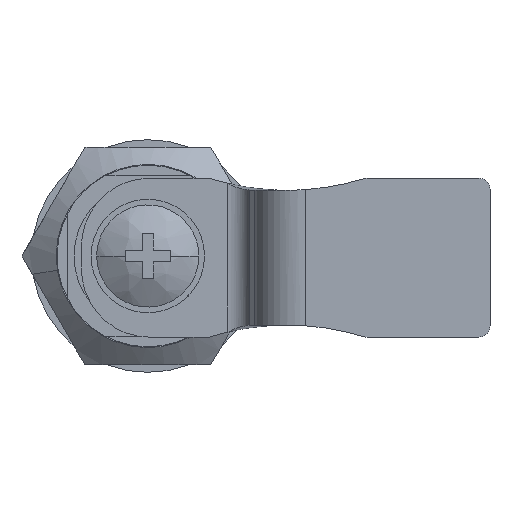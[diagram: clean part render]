
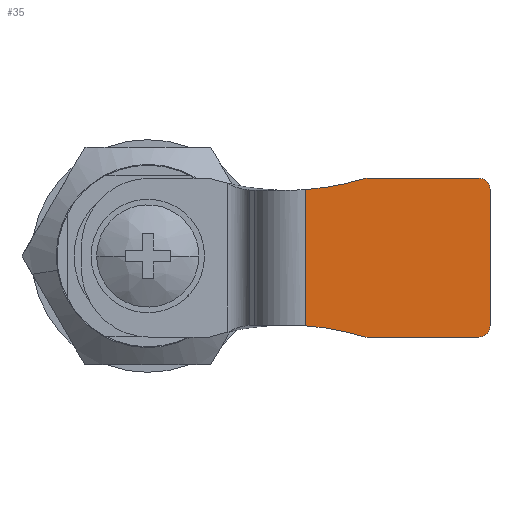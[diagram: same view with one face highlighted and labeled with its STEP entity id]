
A CAD part, front view. The second image highlights one B-rep face of the part: STEP entity #35.
In plain terms, the highlighted planar face has unit normal (0, -1, 0).
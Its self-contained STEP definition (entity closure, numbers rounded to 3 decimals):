
#14 = VERTEX_POINT ( 'NONE', #313 ) ;
#15 = ORIENTED_EDGE ( 'NONE', *, *, #33, .F. ) ;
#19 = ORIENTED_EDGE ( 'NONE', *, *, #240, .F. ) ;
#21 = EDGE_LOOP ( 'NONE', ( #19, #15, #22, #48, #31, #25, #47, #42, #40, #62 ) ) ;
#22 = ORIENTED_EDGE ( 'NONE', *, *, #24, .F. ) ;
#24 = EDGE_CURVE ( 'NONE', #34, #30, #336, .T. ) ;
#25 = ORIENTED_EDGE ( 'NONE', *, *, #54, .T. ) ;
#28 = EDGE_CURVE ( 'NONE', #14, #34, #331, .T. ) ;
#30 = VERTEX_POINT ( 'NONE', #428 ) ;
#31 = ORIENTED_EDGE ( 'NONE', *, *, #46, .F. ) ;
#33 = EDGE_CURVE ( 'NONE', #30, #236, #429, .T. ) ;
#34 = VERTEX_POINT ( 'NONE', #588 ) ;
#35 = ADVANCED_FACE ( 'NONE', ( #587 ), #586, .F. ) ;
#38 = VERTEX_POINT ( 'NONE', #567 ) ;
#40 = ORIENTED_EDGE ( 'NONE', *, *, #270, .F. ) ;
#42 = ORIENTED_EDGE ( 'NONE', *, *, #254, .T. ) ;
#45 = EDGE_CURVE ( 'NONE', #237, #212, #566, .T. ) ;
#46 = EDGE_CURVE ( 'NONE', #38, #14, #616, .T. ) ;
#47 = ORIENTED_EDGE ( 'NONE', *, *, #227, .F. ) ;
#48 = ORIENTED_EDGE ( 'NONE', *, *, #28, .F. ) ;
#54 = EDGE_CURVE ( 'NONE', #38, #247, #595, .T. ) ;
#62 = ORIENTED_EDGE ( 'NONE', *, *, #45, .F. ) ;
#212 = VERTEX_POINT ( 'NONE', #1320 ) ;
#222 = VERTEX_POINT ( 'NONE', #1352 ) ;
#227 = EDGE_CURVE ( 'NONE', #222, #247, #1348, .T. ) ;
#236 = VERTEX_POINT ( 'NONE', #1345 ) ;
#237 = VERTEX_POINT ( 'NONE', #1343 ) ;
#240 = EDGE_CURVE ( 'NONE', #236, #237, #1373, .T. ) ;
#247 = VERTEX_POINT ( 'NONE', #1411 ) ;
#254 = EDGE_CURVE ( 'NONE', #222, #267, #1412, .T. ) ;
#267 = VERTEX_POINT ( 'NONE', #1475 ) ;
#270 = EDGE_CURVE ( 'NONE', #212, #267, #1501, .T. ) ;
#313 = CARTESIAN_POINT ( 'NONE',  ( 25.172, -11.5, 14. ) ) ;
#331 = LINE ( 'NONE', #385, #384 ) ;
#332 = DIRECTION ( 'NONE',  ( 0., 0., -1. ) ) ;
#333 = DIRECTION ( 'NONE',  ( 0., 1., 0. ) ) ;
#334 = CARTESIAN_POINT ( 'NONE',  ( 35., -11.5, 13. ) ) ;
#335 = AXIS2_PLACEMENT_3D ( 'NONE', #334, #333, #332 ) ;
#336 = CIRCLE ( 'NONE', #335, 1. ) ;
#383 = DIRECTION ( 'NONE',  ( 1., 0., 0. ) ) ;
#384 = VECTOR ( 'NONE', #383, 1000. ) ;
#385 = CARTESIAN_POINT ( 'NONE',  ( 15.291, -11.5, 14. ) ) ;
#428 = CARTESIAN_POINT ( 'NONE',  ( 36., -11.5, 13. ) ) ;
#429 = LINE ( 'NONE', #538, #537 ) ;
#536 = DIRECTION ( 'NONE',  ( 0., 0., -1. ) ) ;
#537 = VECTOR ( 'NONE', #536, 1000. ) ;
#538 = CARTESIAN_POINT ( 'NONE',  ( 36., -11.5, 14. ) ) ;
#564 = CARTESIAN_POINT ( 'NONE',  ( 18., -11.5, 14. ) ) ;
#565 = AXIS2_PLACEMENT_3D ( 'NONE', #564, #618, #617 ) ;
#566 = LINE ( 'NONE', #569, #607 ) ;
#567 = CARTESIAN_POINT ( 'NONE',  ( 24.879, -11.5, 13.956 ) ) ;
#568 = DIRECTION ( 'NONE',  ( -1., 0., 0. ) ) ;
#569 = CARTESIAN_POINT ( 'NONE',  ( 19.751, -11.5, 0. ) ) ;
#586 = PLANE ( 'NONE',  #565 ) ;
#587 = FACE_OUTER_BOUND ( 'NONE', #21, .T. ) ;
#588 = CARTESIAN_POINT ( 'NONE',  ( 35., -11.5, 14. ) ) ;
#590 = DIRECTION ( 'NONE',  ( -1., 0., 0. ) ) ;
#591 = DIRECTION ( 'NONE',  ( 0., 1., 0. ) ) ;
#592 = CARTESIAN_POINT ( 'NONE',  ( 18.139, -11.5, 35.964 ) ) ;
#595 = CIRCLE ( 'NONE', #597, 23.017 ) ;
#597 = AXIS2_PLACEMENT_3D ( 'NONE', #592, #591, #590 ) ;
#604 = DIRECTION ( 'NONE',  ( -1., 0., 0. ) ) ;
#605 = DIRECTION ( 'NONE',  ( 0., 1., 0. ) ) ;
#607 = VECTOR ( 'NONE', #568, 1000. ) ;
#610 = AXIS2_PLACEMENT_3D ( 'NONE', #612, #605, #604 ) ;
#612 = CARTESIAN_POINT ( 'NONE',  ( 25.172, -11.5, 13. ) ) ;
#616 = CIRCLE ( 'NONE', #610, 1. ) ;
#617 = DIRECTION ( 'NONE',  ( -1., 0., 0. ) ) ;
#618 = DIRECTION ( 'NONE',  ( 0., 1., 0. ) ) ;
#1320 = CARTESIAN_POINT ( 'NONE',  ( 25.172, -11.5, 0. ) ) ;
#1330 = AXIS2_PLACEMENT_3D ( 'NONE', #1354, #1423, #1357 ) ;
#1333 = DIRECTION ( 'NONE',  ( 0., 0., 1. ) ) ;
#1334 = VECTOR ( 'NONE', #1333, 1000. ) ;
#1335 = CARTESIAN_POINT ( 'NONE',  ( 19.751, -11.5, 14. ) ) ;
#1343 = CARTESIAN_POINT ( 'NONE',  ( 35., -11.5, 0. ) ) ;
#1345 = CARTESIAN_POINT ( 'NONE',  ( 36., -11.5, 1. ) ) ;
#1348 = LINE ( 'NONE', #1335, #1334 ) ;
#1352 = CARTESIAN_POINT ( 'NONE',  ( 19.751, -11.5, 0.996 ) ) ;
#1354 = CARTESIAN_POINT ( 'NONE',  ( 35., -11.5, 1. ) ) ;
#1357 = DIRECTION ( 'NONE',  ( 0., 0., -1. ) ) ;
#1373 = CIRCLE ( 'NONE', #1330, 1. ) ;
#1396 = CARTESIAN_POINT ( 'NONE',  ( 18.139, -11.5, -21.964 ) ) ;
#1411 = CARTESIAN_POINT ( 'NONE',  ( 19.751, -11.5, 13.004 ) ) ;
#1412 = CIRCLE ( 'NONE', #1458, 23.017 ) ;
#1423 = DIRECTION ( 'NONE',  ( 0., 1., 0. ) ) ;
#1450 = DIRECTION ( 'NONE',  ( -1., 0., 0. ) ) ;
#1451 = DIRECTION ( 'NONE',  ( 0., 1., 0. ) ) ;
#1458 = AXIS2_PLACEMENT_3D ( 'NONE', #1396, #1451, #1450 ) ;
#1475 = CARTESIAN_POINT ( 'NONE',  ( 24.879, -11.5, 0.044 ) ) ;
#1498 = DIRECTION ( 'NONE',  ( -1., 0., 0. ) ) ;
#1499 = DIRECTION ( 'NONE',  ( 0., 1., 0. ) ) ;
#1500 = AXIS2_PLACEMENT_3D ( 'NONE', #1513, #1499, #1498 ) ;
#1501 = CIRCLE ( 'NONE', #1500, 1. ) ;
#1513 = CARTESIAN_POINT ( 'NONE',  ( 25.172, -11.5, 1. ) ) ;
